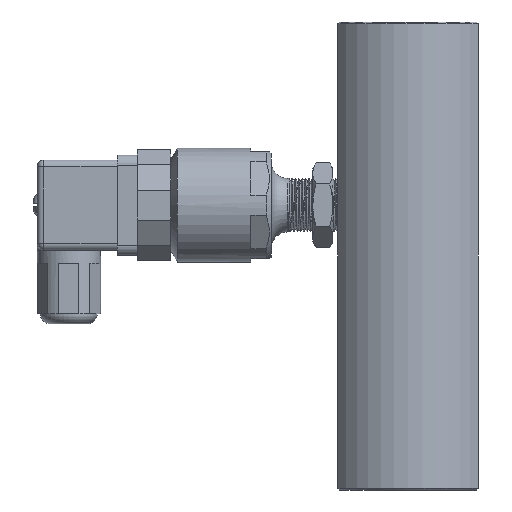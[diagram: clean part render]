
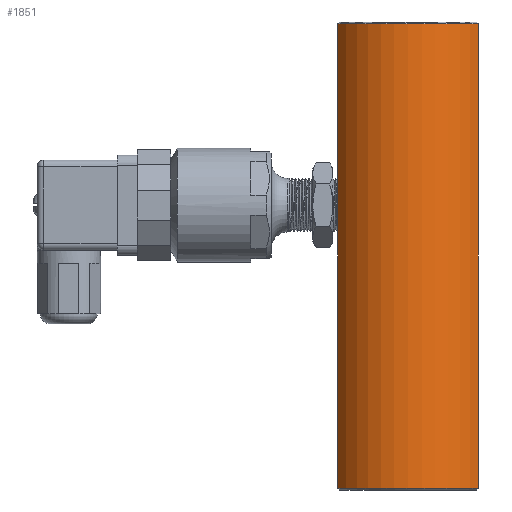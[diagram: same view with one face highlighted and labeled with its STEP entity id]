
A CAD part, left-side view. The second image highlights one B-rep face of the part: STEP entity #1851.
In plain terms, the highlighted cylindrical face has radius 25 mm (diameter 50 mm), a partial arc.
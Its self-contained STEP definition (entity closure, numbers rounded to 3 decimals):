
#200=CYLINDRICAL_SURFACE('',#7643,25.);
#317=LINE('',#10835,#996);
#323=LINE('',#10849,#1002);
#996=VECTOR('',#8355,1.);
#1002=VECTOR('',#8363,1.);
#1851=ADVANCED_FACE('',(#2518),#200,.T.);
#2518=FACE_OUTER_BOUND('',#2914,.T.);
#2914=EDGE_LOOP('',(#3459,#3460,#3461,#3462));
#3459=ORIENTED_EDGE('',*,*,#6315,.T.);
#3460=ORIENTED_EDGE('',*,*,#6328,.T.);
#3461=ORIENTED_EDGE('',*,*,#6309,.T.);
#3462=ORIENTED_EDGE('',*,*,#6329,.T.);
#5569=VERTEX_POINT('',#10836);
#5570=VERTEX_POINT('',#10837);
#5575=VERTEX_POINT('',#10848);
#5576=VERTEX_POINT('',#10850);
#6309=EDGE_CURVE('',#5569,#5570,#317,.T.);
#6315=EDGE_CURVE('',#5576,#5575,#323,.T.);
#6328=EDGE_CURVE('',#5575,#5569,#7372,.T.);
#6329=EDGE_CURVE('',#5570,#5576,#7373,.T.);
#7372=CIRCLE('',#7641,25.);
#7373=CIRCLE('',#7642,25.);
#7641=AXIS2_PLACEMENT_3D('',#11009,#8392,#8393);
#7642=AXIS2_PLACEMENT_3D('',#11010,#8394,#8395);
#7643=AXIS2_PLACEMENT_3D('',#11011,#8396,#8397);
#8355=DIRECTION('',(0.,0.,-1.));
#8363=DIRECTION('',(0.,0.,1.));
#8392=DIRECTION('',(0.,0.,-1.));
#8393=DIRECTION('',(-1.,0.,0.));
#8394=DIRECTION('',(0.,0.,1.));
#8395=DIRECTION('',(1.,0.,0.));
#8396=DIRECTION('',(0.,0.,-1.));
#8397=DIRECTION('',(-1.,0.,0.));
#10835=CARTESIAN_POINT('',(-13.565,21.,119.));
#10836=CARTESIAN_POINT('',(-13.565,21.,36.5));
#10837=CARTESIAN_POINT('',(-13.565,21.,-102.5));
#10848=CARTESIAN_POINT('',(-13.565,-21.,36.5));
#10849=CARTESIAN_POINT('',(-13.565,-21.,119.));
#10850=CARTESIAN_POINT('',(-13.565,-21.,-102.5));
#11009=CARTESIAN_POINT('',(0.,0.,36.5));
#11010=CARTESIAN_POINT('',(0.,0.,-102.5));
#11011=CARTESIAN_POINT('',(0.,0.,119.));
